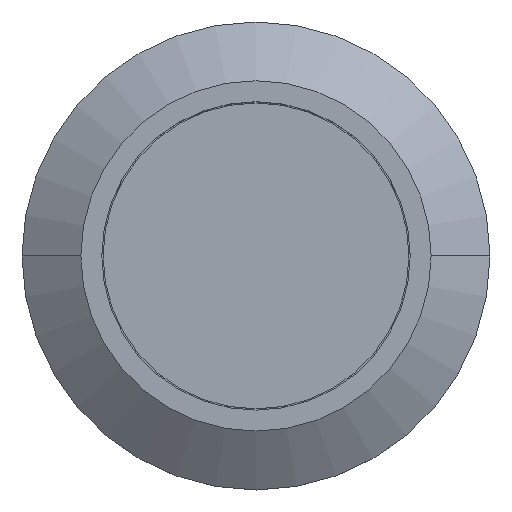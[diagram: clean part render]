
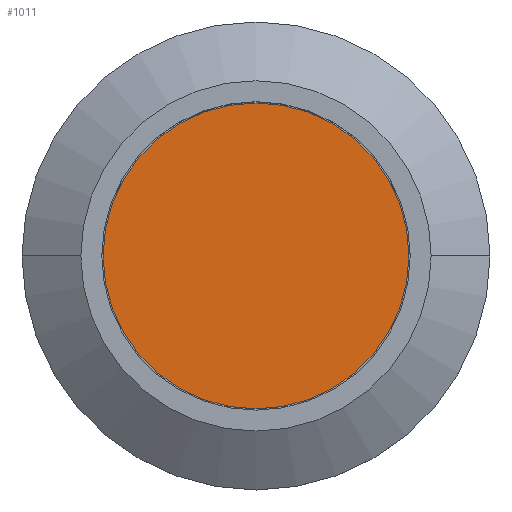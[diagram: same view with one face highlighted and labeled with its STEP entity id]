
A CAD part, top view. The second image highlights one B-rep face of the part: STEP entity #1011.
In plain terms, the highlighted planar face has unit normal (0, 0, 1).
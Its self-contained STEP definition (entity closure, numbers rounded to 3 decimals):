
#612=PLANE('',#10313);
#1011=ADVANCED_FACE('',(#1834),#612,.F.);
#1834=FACE_OUTER_BOUND('',#2361,.T.);
#2361=EDGE_LOOP('',(#4389,#4390));
#2758=CIRCLE('',#10311,5.85);
#2759=CIRCLE('',#10312,5.85);
#4389=ORIENTED_EDGE('',*,*,#7419,.T.);
#4390=ORIENTED_EDGE('',*,*,#7420,.T.);
#6196=VERTEX_POINT('',#24972);
#6197=VERTEX_POINT('',#24973);
#7419=EDGE_CURVE('',#6196,#6197,#2758,.T.);
#7420=EDGE_CURVE('',#6197,#6196,#2759,.T.);
#10311=AXIS2_PLACEMENT_3D('',#24971,#11608,#11609);
#10312=AXIS2_PLACEMENT_3D('',#24974,#11610,#11611);
#10313=AXIS2_PLACEMENT_3D('',#24975,#11612,#11613);
#11608=DIRECTION('',(0.,0.,1.));
#11609=DIRECTION('',(1.,0.,0.));
#11610=DIRECTION('',(0.,0.,1.));
#11611=DIRECTION('',(-1.,0.,0.));
#11612=DIRECTION('',(0.,0.,-1.));
#11613=DIRECTION('',(1.,0.,0.));
#24971=CARTESIAN_POINT('',(0.,0.,16.3));
#24972=CARTESIAN_POINT('',(5.85,0.,16.3));
#24973=CARTESIAN_POINT('',(-5.85,0.,16.3));
#24974=CARTESIAN_POINT('',(0.,0.,16.3));
#24975=CARTESIAN_POINT('',(10.,6.35,16.3));
